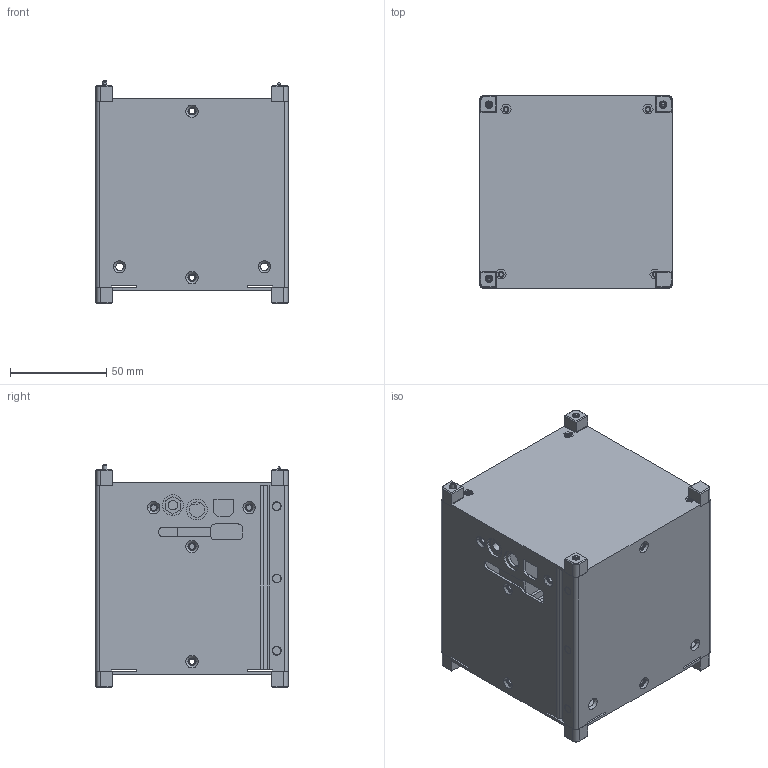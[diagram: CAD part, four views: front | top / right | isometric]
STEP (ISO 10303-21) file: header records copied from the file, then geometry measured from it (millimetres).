
FILE_DESCRIPTION (( 'STEP AP214' ), '1' );
FILE_NAME ('CSK_1U_Chassis_Solid_RevD.STEP', '2008-10-08T09:19:09', ( ' ' ), ( ' ' ), 'SwSTEP 2.0', 'SolidWorks 2005339', '' );
FILE_SCHEMA (( 'AUTOMOTIVE_DESIGN' ));
Length unit declared in the file: inch
Products named in the file (1): CSK_1U_Chassis_Solid_RevD
Bounding box: 100 x 100 x 116.04 mm (x, y, z)
Volume: 90013.4 mm3; surface area: 130712.6 mm2
Topology: 1 solids, 69 shells, 2049 faces, 4845 edges, 2891 vertices
Faces by surface type: cone 780, plane 687, cylinder 532, torus 34, sphere 16
Entity records: 67809 total; most frequent: DIRECTION 10952, CARTESIAN_POINT 10131, ORIENTED_EDGE 9682, EDGE_CURVE 4841, AXIS2_PLACEMENT_3D 4140, VERTEX_POINT 2891, VECTOR 2672, LINE 2672
